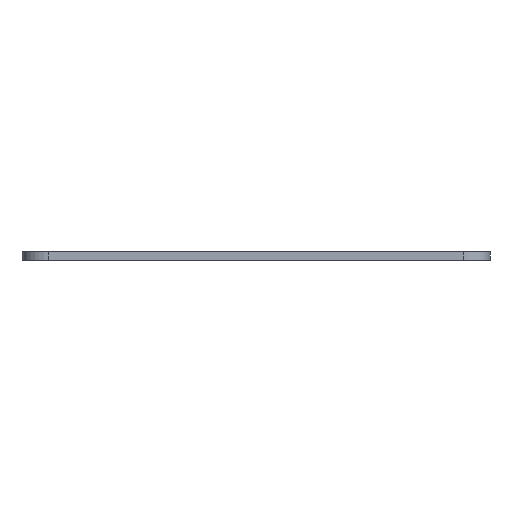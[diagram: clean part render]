
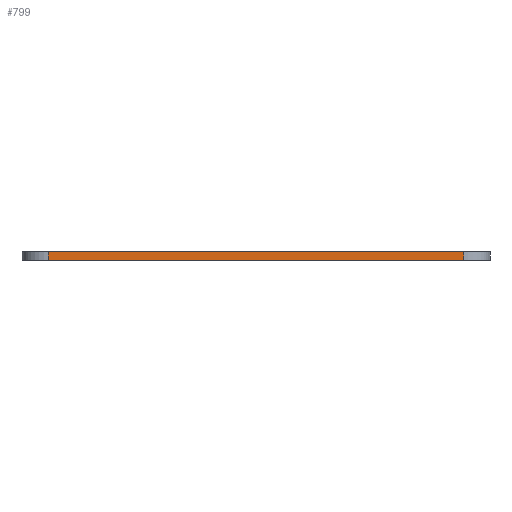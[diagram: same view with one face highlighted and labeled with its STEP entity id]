
A CAD part, front view. The second image highlights one B-rep face of the part: STEP entity #799.
In plain terms, the highlighted planar face has unit normal (0, -1, 0).
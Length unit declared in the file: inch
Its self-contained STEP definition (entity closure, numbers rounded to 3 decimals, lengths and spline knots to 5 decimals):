
#33 = DIRECTION ( 'NONE',  ( 0., 0., 1. ) ) ;
#62 = VERTEX_POINT ( 'NONE', #806 ) ;
#65 = CARTESIAN_POINT ( 'NONE',  ( 1.49688, 0., 0.0625 ) ) ;
#70 = VERTEX_POINT ( 'NONE', #394 ) ;
#91 = ORIENTED_EDGE ( 'NONE', *, *, #458, .F. ) ;
#109 = VERTEX_POINT ( 'NONE', #757 ) ;
#113 = CARTESIAN_POINT ( 'NONE',  ( -1.49688, 0., 0.0625 ) ) ;
#130 = ORIENTED_EDGE ( 'NONE', *, *, #268, .F. ) ;
#135 = LINE ( 'NONE', #714, #318 ) ;
#164 = CARTESIAN_POINT ( 'NONE',  ( 1.49688, 0., 0.0625 ) ) ;
#192 = LINE ( 'NONE', #113, #879 ) ;
#246 = AXIS2_PLACEMENT_3D ( 'NONE', #790, #449, #33 ) ;
#259 = VERTEX_POINT ( 'NONE', #164 ) ;
#268 = EDGE_CURVE ( 'NONE', #70, #259, #135, .T. ) ;
#275 = VECTOR ( 'NONE', #369, 39.37008 ) ;
#297 = LINE ( 'NONE', #644, #275 ) ;
#312 = EDGE_CURVE ( 'NONE', #62, #109, #297, .T. ) ;
#318 = VECTOR ( 'NONE', #779, 39.37008 ) ;
#369 = DIRECTION ( 'NONE',  ( -1., 0., 0. ) ) ;
#377 = PLANE ( 'NONE',  #246 ) ;
#394 = CARTESIAN_POINT ( 'NONE',  ( -1.49688, 0., 0.0625 ) ) ;
#400 = ORIENTED_EDGE ( 'NONE', *, *, #499, .F. ) ;
#409 = DIRECTION ( 'NONE',  ( 0., 0., -1. ) ) ;
#449 = DIRECTION ( 'NONE',  ( 0., 1., 0. ) ) ;
#458 = EDGE_CURVE ( 'NONE', #109, #70, #192, .T. ) ;
#461 = DIRECTION ( 'NONE',  ( 0., 0., 1. ) ) ;
#499 = EDGE_CURVE ( 'NONE', #259, #62, #857, .T. ) ;
#555 = ORIENTED_EDGE ( 'NONE', *, *, #312, .F. ) ;
#575 = EDGE_LOOP ( 'NONE', ( #400, #130, #91, #555 ) ) ;
#635 = FACE_OUTER_BOUND ( 'NONE', #575, .T. ) ;
#644 = CARTESIAN_POINT ( 'NONE',  ( -1.6875, 0., 0. ) ) ;
#677 = VECTOR ( 'NONE', #409, 39.37008 ) ;
#714 = CARTESIAN_POINT ( 'NONE',  ( -0.5625, 0., 0.0625 ) ) ;
#757 = CARTESIAN_POINT ( 'NONE',  ( -1.49688, 0., 0. ) ) ;
#779 = DIRECTION ( 'NONE',  ( 1., 0., 0. ) ) ;
#790 = CARTESIAN_POINT ( 'NONE',  ( -1.6875, 0., 0.0625 ) ) ;
#799 = ADVANCED_FACE ( 'NONE', ( #635 ), #377, .F. ) ;
#806 = CARTESIAN_POINT ( 'NONE',  ( 1.49688, 0., 0. ) ) ;
#857 = LINE ( 'NONE', #65, #677 ) ;
#879 = VECTOR ( 'NONE', #461, 39.37008 ) ;
